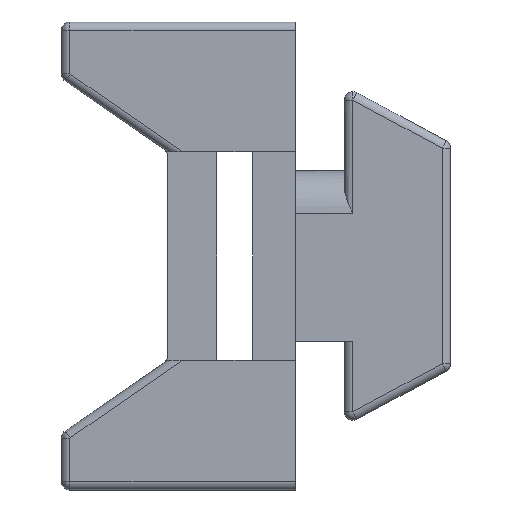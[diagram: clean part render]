
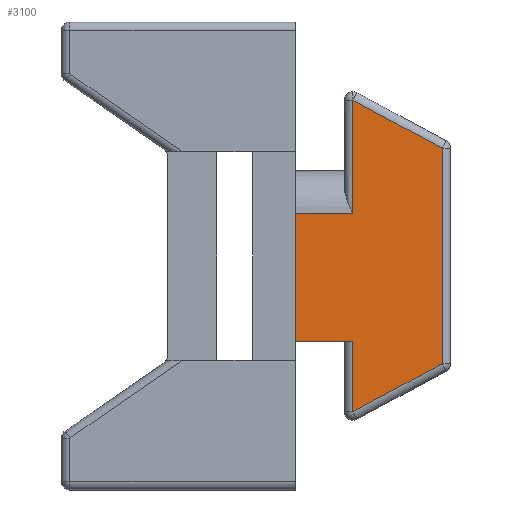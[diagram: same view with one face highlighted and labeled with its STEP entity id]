
A CAD part, left-side view. The second image highlights one B-rep face of the part: STEP entity #3100.
In plain terms, the highlighted planar face has unit normal (-1, 0, 0).
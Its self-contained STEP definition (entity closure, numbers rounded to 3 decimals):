
#72 = DIRECTION ( 'NONE',  ( 0., 0.88, 0.475 ) ) ;
#106 = EDGE_CURVE ( 'NONE', #293, #3355, #2227, .T. ) ;
#109 = VERTEX_POINT ( 'NONE', #191 ) ;
#131 = VECTOR ( 'NONE', #3043, 1000. ) ;
#191 = CARTESIAN_POINT ( 'NONE',  ( -3.4, -8.2, 7.329 ) ) ;
#248 = EDGE_CURVE ( 'NONE', #109, #3677, #2329, .T. ) ;
#249 = DIRECTION ( 'NONE',  ( 0., 0., 1. ) ) ;
#290 = LINE ( 'NONE', #2910, #1575 ) ;
#293 = VERTEX_POINT ( 'NONE', #851 ) ;
#355 = VERTEX_POINT ( 'NONE', #3211 ) ;
#411 = CARTESIAN_POINT ( 'NONE',  ( -3.4, -12.4, 5.061 ) ) ;
#674 = VECTOR ( 'NONE', #72, 1000. ) ;
#728 = LINE ( 'NONE', #3328, #131 ) ;
#808 = ORIENTED_EDGE ( 'NONE', *, *, #2355, .T. ) ;
#812 = LINE ( 'NONE', #3319, #2665 ) ;
#827 = VECTOR ( 'NONE', #1694, 1000. ) ;
#842 = ORIENTED_EDGE ( 'NONE', *, *, #1266, .F. ) ;
#851 = CARTESIAN_POINT ( 'NONE',  ( -3.4, -8.2, -4. ) ) ;
#867 = VECTOR ( 'NONE', #3561, 1000. ) ;
#941 = PLANE ( 'NONE',  #3424 ) ;
#1077 = CARTESIAN_POINT ( 'NONE',  ( -3.4, -12.4, -5.061 ) ) ;
#1135 = DIRECTION ( 'NONE',  ( 0., 0., 1. ) ) ;
#1266 = EDGE_CURVE ( 'NONE', #293, #355, #290, .T. ) ;
#1269 = LINE ( 'NONE', #1541, #674 ) ;
#1282 = CARTESIAN_POINT ( 'NONE',  ( -3.4, -5.5, 2. ) ) ;
#1368 = CARTESIAN_POINT ( 'NONE',  ( -3.4, -8.2, -7.329 ) ) ;
#1408 = CARTESIAN_POINT ( 'NONE',  ( -3.4, -5.5, 4. ) ) ;
#1541 = CARTESIAN_POINT ( 'NONE',  ( -3.4, -7.61, 7.648 ) ) ;
#1575 = VECTOR ( 'NONE', #3152, 1000. ) ;
#1694 = DIRECTION ( 'NONE',  ( 0., 0., -1. ) ) ;
#1778 = ORIENTED_EDGE ( 'NONE', *, *, #2082, .F. ) ;
#1830 = EDGE_CURVE ( 'NONE', #3228, #109, #1269, .T. ) ;
#1959 = EDGE_CURVE ( 'NONE', #3355, #1964, #728, .T. ) ;
#1964 = VERTEX_POINT ( 'NONE', #1077 ) ;
#1976 = LINE ( 'NONE', #1408, #3001 ) ;
#2047 = ORIENTED_EDGE ( 'NONE', *, *, #1959, .T. ) ;
#2071 = DIRECTION ( 'NONE',  ( 0., 0., 1. ) ) ;
#2082 = EDGE_CURVE ( 'NONE', #355, #2311, #1976, .T. ) ;
#2146 = LINE ( 'NONE', #3629, #867 ) ;
#2187 = CARTESIAN_POINT ( 'NONE',  ( -3.4, -8.2, 2. ) ) ;
#2227 = LINE ( 'NONE', #3337, #827 ) ;
#2267 = DIRECTION ( 'NONE',  ( 0., 0., -1. ) ) ;
#2311 = VERTEX_POINT ( 'NONE', #1282 ) ;
#2329 = LINE ( 'NONE', #3191, #3456 ) ;
#2331 = ORIENTED_EDGE ( 'NONE', *, *, #1830, .T. ) ;
#2355 = EDGE_CURVE ( 'NONE', #1964, #3228, #812, .T. ) ;
#2633 = ORIENTED_EDGE ( 'NONE', *, *, #3671, .T. ) ;
#2665 = VECTOR ( 'NONE', #249, 1000. ) ;
#2837 = EDGE_LOOP ( 'NONE', ( #842, #3359, #2047, #808, #2331, #3592, #2633, #1778 ) ) ;
#2905 = DIRECTION ( 'NONE',  ( -1., 0., 0. ) ) ;
#2910 = CARTESIAN_POINT ( 'NONE',  ( -3.4, -5.5, -4. ) ) ;
#2924 = CARTESIAN_POINT ( 'NONE',  ( -3.4, 0., 0. ) ) ;
#2937 = FACE_OUTER_BOUND ( 'NONE', #2837, .T. ) ;
#3001 = VECTOR ( 'NONE', #1135, 1000. ) ;
#3043 = DIRECTION ( 'NONE',  ( 0., -0.88, 0.475 ) ) ;
#3100 = ADVANCED_FACE ( 'NONE', ( #2937 ), #941, .T. ) ;
#3152 = DIRECTION ( 'NONE',  ( 0., 1., 0. ) ) ;
#3191 = CARTESIAN_POINT ( 'NONE',  ( -3.4, -8.2, 2. ) ) ;
#3211 = CARTESIAN_POINT ( 'NONE',  ( -3.4, -5.5, -4. ) ) ;
#3228 = VERTEX_POINT ( 'NONE', #411 ) ;
#3319 = CARTESIAN_POINT ( 'NONE',  ( -3.4, -12.4, 5.3 ) ) ;
#3328 = CARTESIAN_POINT ( 'NONE',  ( -3.4, -12.61, -4.948 ) ) ;
#3337 = CARTESIAN_POINT ( 'NONE',  ( -3.4, -8.2, -8. ) ) ;
#3355 = VERTEX_POINT ( 'NONE', #1368 ) ;
#3359 = ORIENTED_EDGE ( 'NONE', *, *, #106, .T. ) ;
#3424 = AXIS2_PLACEMENT_3D ( 'NONE', #2924, #2905, #2071 ) ;
#3456 = VECTOR ( 'NONE', #2267, 1000. ) ;
#3561 = DIRECTION ( 'NONE',  ( 0., 1., 0. ) ) ;
#3592 = ORIENTED_EDGE ( 'NONE', *, *, #248, .T. ) ;
#3629 = CARTESIAN_POINT ( 'NONE',  ( -3.4, -5.5, 2. ) ) ;
#3671 = EDGE_CURVE ( 'NONE', #3677, #2311, #2146, .T. ) ;
#3677 = VERTEX_POINT ( 'NONE', #2187 ) ;
